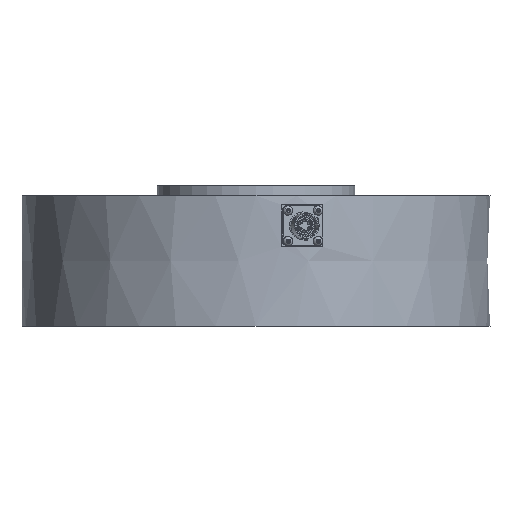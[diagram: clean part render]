
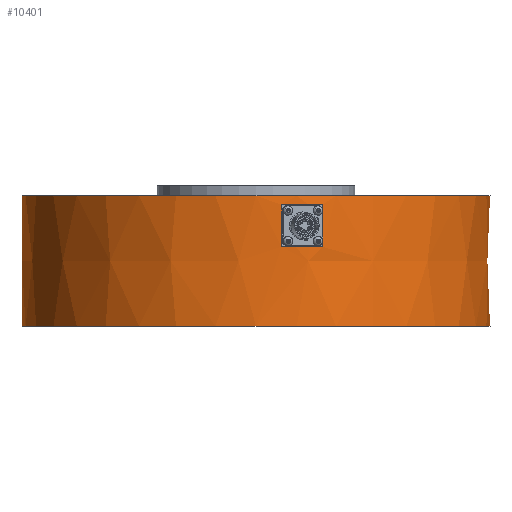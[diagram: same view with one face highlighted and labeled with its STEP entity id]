
A CAD part, front view. The second image highlights one B-rep face of the part: STEP entity #10401.
In plain terms, the highlighted conical face has half-angle 0.006 degrees and reference radius 139.504 mm.
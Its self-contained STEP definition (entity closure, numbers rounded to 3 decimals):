
#183=CONICAL_SURFACE('',#11101,139.504,0.);
#225=FACE_BOUND('',#1788,.T.);
#674=CIRCLE('',#11102,139.507);
#675=CIRCLE('',#11103,139.507);
#676=CIRCLE('',#11104,139.5);
#677=CIRCLE('',#11105,139.5);
#678=CIRCLE('',#11106,139.507);
#679=CIRCLE('',#11107,139.504);
#1194=FACE_OUTER_BOUND('',#1787,.T.);
#1787=EDGE_LOOP('',(#7370,#7371,#7372,#7373,#7374,#7375));
#1788=EDGE_LOOP('',(#7376,#7377,#7378,#7379));
#2870=LINE('',#18573,#3583);
#2871=LINE('',#18581,#3584);
#2872=LINE('',#18584,#3585);
#3583=VECTOR('',#12379,139.504);
#3584=VECTOR('',#12386,10.);
#3585=VECTOR('',#12389,10.);
#4390=VERTEX_POINT('',#18568);
#4391=VERTEX_POINT('',#18569);
#4392=VERTEX_POINT('',#18572);
#4393=VERTEX_POINT('',#18574);
#4394=VERTEX_POINT('',#18577);
#4395=VERTEX_POINT('',#18578);
#4396=VERTEX_POINT('',#18580);
#4397=VERTEX_POINT('',#18582);
#5585=EDGE_CURVE('',#4390,#4391,#674,.T.);
#5586=EDGE_CURVE('',#4391,#4390,#675,.T.);
#5587=EDGE_CURVE('',#4391,#4392,#2870,.T.);
#5588=EDGE_CURVE('',#4392,#4393,#676,.T.);
#5589=EDGE_CURVE('',#4393,#4392,#677,.T.);
#5590=EDGE_CURVE('',#4394,#4395,#678,.T.);
#5591=EDGE_CURVE('',#4395,#4396,#2871,.T.);
#5592=EDGE_CURVE('',#4396,#4397,#679,.T.);
#5593=EDGE_CURVE('',#4397,#4394,#2872,.T.);
#7370=ORIENTED_EDGE('',*,*,#5585,.F.);
#7371=ORIENTED_EDGE('',*,*,#5586,.F.);
#7372=ORIENTED_EDGE('',*,*,#5587,.T.);
#7373=ORIENTED_EDGE('',*,*,#5588,.T.);
#7374=ORIENTED_EDGE('',*,*,#5589,.T.);
#7375=ORIENTED_EDGE('',*,*,#5587,.F.);
#7376=ORIENTED_EDGE('',*,*,#5590,.T.);
#7377=ORIENTED_EDGE('',*,*,#5591,.T.);
#7378=ORIENTED_EDGE('',*,*,#5592,.T.);
#7379=ORIENTED_EDGE('',*,*,#5593,.T.);
#10401=ADVANCED_FACE('',(#1194,#225),#183,.T.);
#11101=AXIS2_PLACEMENT_3D('',#18567,#12373,#12374);
#11102=AXIS2_PLACEMENT_3D('',#18570,#12375,#12376);
#11103=AXIS2_PLACEMENT_3D('',#18571,#12377,#12378);
#11104=AXIS2_PLACEMENT_3D('',#18575,#12380,#12381);
#11105=AXIS2_PLACEMENT_3D('',#18576,#12382,#12383);
#11106=AXIS2_PLACEMENT_3D('',#18579,#12384,#12385);
#11107=AXIS2_PLACEMENT_3D('',#18583,#12387,#12388);
#12373=DIRECTION('center_axis',(0.,0.,1.));
#12374=DIRECTION('ref_axis',(1.,0.,0.));
#12375=DIRECTION('center_axis',(0.,0.,1.));
#12376=DIRECTION('ref_axis',(1.,0.,0.));
#12377=DIRECTION('center_axis',(0.,0.,1.));
#12378=DIRECTION('ref_axis',(1.,0.,0.));
#12379=DIRECTION('',(0.,0.,-1.));
#12380=DIRECTION('center_axis',(0.,0.,1.));
#12381=DIRECTION('ref_axis',(1.,0.,0.));
#12382=DIRECTION('center_axis',(0.,0.,1.));
#12383=DIRECTION('ref_axis',(1.,0.,0.));
#12384=DIRECTION('center_axis',(0.,0.,
1.));
#12385=DIRECTION('ref_axis',(-0.198,0.98,0.));
#12386=DIRECTION('',(0.,0.,-1.));
#12387=DIRECTION('center_axis',(0.,0.,
-1.));
#12388=DIRECTION('ref_axis',(-0.198,0.98,0.));
#12389=DIRECTION('',(0.,0.,1.));
#18567=CARTESIAN_POINT('Origin',(-0.004,0.,34.986));
#18568=CARTESIAN_POINT('',(139.5,0.,74.));
#18569=CARTESIAN_POINT('',(-139.515,0.,73.972));
#18570=CARTESIAN_POINT('Origin',(-0.007,0.,73.986));
#18571=CARTESIAN_POINT('Origin',(-0.007,0.,73.986));
#18572=CARTESIAN_POINT('',(-139.499,0.,-4.028));
#18573=CARTESIAN_POINT('',(-139.507,0.,34.972));
#18574=CARTESIAN_POINT('',(139.5,0.,-4.));
#18575=CARTESIAN_POINT('Origin',(0.,0.,-4.014));
#18576=CARTESIAN_POINT('Origin',(0.,0.,-4.014));
#18577=CARTESIAN_POINT('',(15.201,-138.675,68.459));
#18578=CARTESIAN_POINT('',(39.623,-133.76,68.462));
#18579=CARTESIAN_POINT('Origin',(-0.007,0.,
68.472));
#18580=CARTESIAN_POINT('',(39.625,-133.757,43.462));
#18581=CARTESIAN_POINT('',(39.624,-133.758,55.962));
#18582=CARTESIAN_POINT('',(15.203,-138.673,43.459));
#18583=CARTESIAN_POINT('Origin',(-0.004,0.,
43.472));
#18584=CARTESIAN_POINT('',(15.202,-138.674,55.959));
